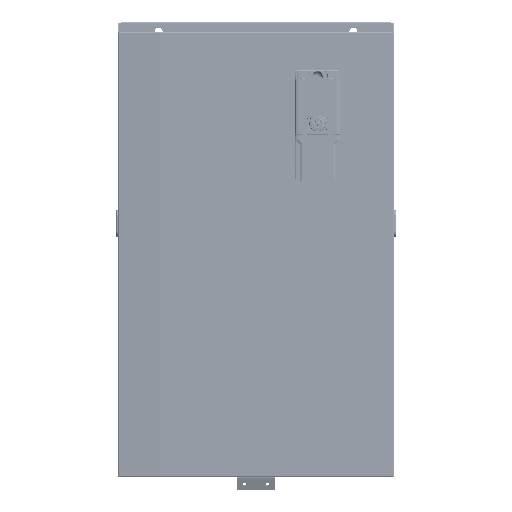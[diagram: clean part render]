
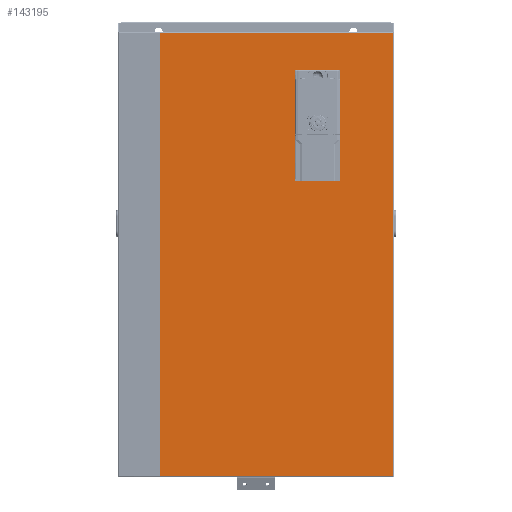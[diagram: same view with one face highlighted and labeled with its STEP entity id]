
A CAD part, front view. The second image highlights one B-rep face of the part: STEP entity #143195.
In plain terms, the highlighted planar face has unit normal (0, -1, 0) as drawn and (0, 1, 0) by its records, which use the part's own axes.
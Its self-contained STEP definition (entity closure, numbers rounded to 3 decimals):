
#141364=DIRECTION('',(0.,0.,-1.));
#141365=VECTOR('',#141364,168.5);
#141366=CARTESIAN_POINT('',(97.5,0.,-114.2));
#141367=LINE('',#141366,#141365);
#141371=CARTESIAN_POINT('',(96.,0.,-282.7));
#141372=DIRECTION('',(0.,1.,0.));
#141373=DIRECTION('',(1.,0.,0.));
#141374=AXIS2_PLACEMENT_3D('',#141371,#141372,#141373);
#141379=DIRECTION('',(-1.,0.,0.));
#141380=VECTOR('',#141379,67.);
#141381=CARTESIAN_POINT('',(96.,0.,-284.2));
#141382=LINE('',#141381,#141380);
#141386=CARTESIAN_POINT('',(29.,0.,-282.7));
#141387=DIRECTION('',(0.,1.,0.));
#141388=DIRECTION('',(0.,0.,-1.));
#141389=AXIS2_PLACEMENT_3D('',#141386,#141387,#141388);
#141394=DIRECTION('',(0.,0.,1.));
#141395=VECTOR('',#141394,168.5);
#141396=CARTESIAN_POINT('',(27.5,0.,-282.7));
#141397=LINE('',#141396,#141395);
#141401=CARTESIAN_POINT('',(29.,0.,-114.2));
#141402=DIRECTION('',(0.,1.,0.));
#141403=DIRECTION('',(-1.,0.,0.));
#141404=AXIS2_PLACEMENT_3D('',#141401,#141402,#141403);
#141409=DIRECTION('',(1.,0.,0.));
#141410=VECTOR('',#141409,67.);
#141411=CARTESIAN_POINT('',(29.,0.,-112.7));
#141412=LINE('',#141411,#141410);
#141416=CARTESIAN_POINT('',(96.,0.,-114.2));
#141417=DIRECTION('',(0.,1.,0.));
#141418=DIRECTION('',(0.,0.,1.));
#141419=AXIS2_PLACEMENT_3D('',#141416,#141417,#141418);
#141452=DIRECTION('',(0.,0.,1.));
#141453=VECTOR('',#141452,682.6);
#141454=CARTESIAN_POINT('',(-179.937,0.,-341.3));
#141455=LINE('',#141454,#141453);
#141526=DIRECTION('',(1.,0.,0.));
#141527=VECTOR('',#141526,358.237);
#141528=CARTESIAN_POINT('',(-179.937,0.,341.3));
#141529=LINE('',#141528,#141527);
#141803=DIRECTION('',(0.,0.,-1.));
#141804=VECTOR('',#141803,682.6);
#141805=CARTESIAN_POINT('',(178.3,0.,341.3));
#141806=LINE('',#141805,#141804);
#141940=DIRECTION('',(-1.,0.,0.));
#141941=VECTOR('',#141940,358.237);
#141942=CARTESIAN_POINT('',(178.3,0.,-341.3));
#141943=LINE('',#141942,#141941);
#142929=CARTESIAN_POINT('',(-179.937,0.,-341.3));
#142930=CARTESIAN_POINT('',(-179.937,0.,341.3));
#142931=VERTEX_POINT('',#142929);
#142932=VERTEX_POINT('',#142930);
#142933=CARTESIAN_POINT('',(178.3,0.,-341.3));
#142934=VERTEX_POINT('',#142933);
#142935=CARTESIAN_POINT('',(178.3,0.,341.3));
#142936=VERTEX_POINT('',#142935);
#142937=CARTESIAN_POINT('',(97.5,0.,-114.2));
#142938=CARTESIAN_POINT('',(97.5,0.,-282.7));
#142939=VERTEX_POINT('',#142937);
#142940=VERTEX_POINT('',#142938);
#142941=CARTESIAN_POINT('',(96.,0.,-284.2));
#142942=VERTEX_POINT('',#142941);
#142943=CARTESIAN_POINT('',(29.,0.,-284.2));
#142944=VERTEX_POINT('',#142943);
#142945=CARTESIAN_POINT('',(27.5,0.,-282.7));
#142946=VERTEX_POINT('',#142945);
#142947=CARTESIAN_POINT('',(27.5,0.,-114.2));
#142948=VERTEX_POINT('',#142947);
#142949=CARTESIAN_POINT('',(29.,0.,-112.7));
#142950=VERTEX_POINT('',#142949);
#142951=CARTESIAN_POINT('',(96.,0.,-112.7));
#142952=VERTEX_POINT('',#142951);
#143162=CARTESIAN_POINT('',(0.,0.,0.));
#143163=DIRECTION('',(0.,1.,0.));
#143164=DIRECTION('',(1.,0.,0.));
#143165=AXIS2_PLACEMENT_3D('',#143162,#143163,#143164);
#143166=PLANE('',#143165);
#143168=ORIENTED_EDGE('',*,*,#143167,.F.);
#143170=ORIENTED_EDGE('',*,*,#143169,.F.);
#143172=ORIENTED_EDGE('',*,*,#143171,.F.);
#143174=ORIENTED_EDGE('',*,*,#143173,.F.);
#143175=EDGE_LOOP('',(#143168,#143170,#143172,#143174));
#143176=FACE_OUTER_BOUND('',#143175,.F.);
#143178=ORIENTED_EDGE('',*,*,#143177,.T.);
#143180=ORIENTED_EDGE('',*,*,#143179,.T.);
#143182=ORIENTED_EDGE('',*,*,#143181,.T.);
#143184=ORIENTED_EDGE('',*,*,#143183,.T.);
#143186=ORIENTED_EDGE('',*,*,#143185,.T.);
#143188=ORIENTED_EDGE('',*,*,#143187,.T.);
#143190=ORIENTED_EDGE('',*,*,#143189,.T.);
#143192=ORIENTED_EDGE('',*,*,#143191,.T.);
#143193=EDGE_LOOP('',(#143178,#143180,#143182,#143184,#143186,#143188,#143190,
#143192));
#143194=FACE_BOUND('',#143193,.F.);
#141375=CIRCLE('',#141374,1.5);
#141390=CIRCLE('',#141389,1.5);
#141405=CIRCLE('',#141404,1.5);
#141420=CIRCLE('',#141419,1.5);
#143167=EDGE_CURVE('',#142931,#142932,#141455,.T.);
#143169=EDGE_CURVE('',#142934,#142931,#141943,.T.);
#143171=EDGE_CURVE('',#142936,#142934,#141806,.T.);
#143173=EDGE_CURVE('',#142932,#142936,#141529,.T.);
#143177=EDGE_CURVE('',#142939,#142940,#141367,.T.);
#143179=EDGE_CURVE('',#142940,#142942,#141375,.T.);
#143181=EDGE_CURVE('',#142942,#142944,#141382,.T.);
#143183=EDGE_CURVE('',#142944,#142946,#141390,.T.);
#143185=EDGE_CURVE('',#142946,#142948,#141397,.T.);
#143187=EDGE_CURVE('',#142948,#142950,#141405,.T.);
#143189=EDGE_CURVE('',#142950,#142952,#141412,.T.);
#143191=EDGE_CURVE('',#142952,#142939,#141420,.T.);
#143195=ADVANCED_FACE('',(#143176,#143194),#143166,.T.);
